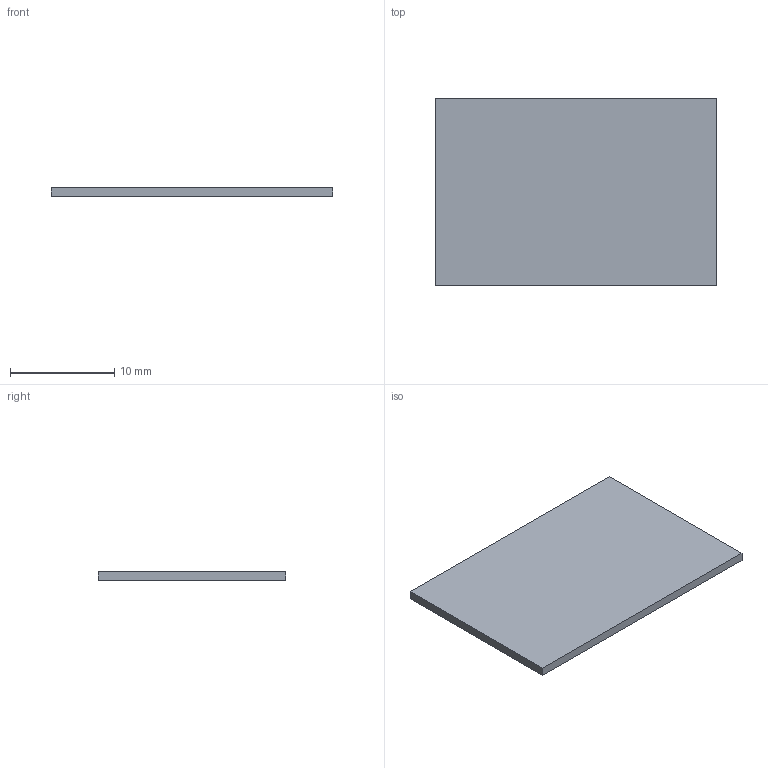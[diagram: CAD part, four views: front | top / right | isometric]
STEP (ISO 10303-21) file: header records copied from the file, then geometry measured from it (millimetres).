
FILE_DESCRIPTION( ( '' ), '1' );
FILE_NAME( '//expscmdclustefs.cadenas.external/client_exchange/iodir/jobs/output/wkb45454683_no0/STEP/216480_2_03.stp', '2012-05-30T16:03:07', ( '' ), ( '' ), ' ', ' ', ' ' );
FILE_SCHEMA( ( 'CONFIG_CONTROL_DESIGN' ) );
Length unit declared in the file: millimetre
Products named in the file (1): 1
Bounding box: 27 x 18 x 0.85 mm (x, y, z)
Volume: 413.1 mm3; surface area: 1048.5 mm2
Topology: 1 solids, 1 shells, 6 faces, 12 edges, 8 vertices
Faces by surface type: plane 6
Entity records: 200 total; most frequent: CARTESIAN_POINT 27, DIRECTION 26, ORIENTED_EDGE 24, EDGE_CURVE 12, LINE 12, VECTOR 12, VERTEX_POINT 8, AXIS2_PLACEMENT_3D 7
